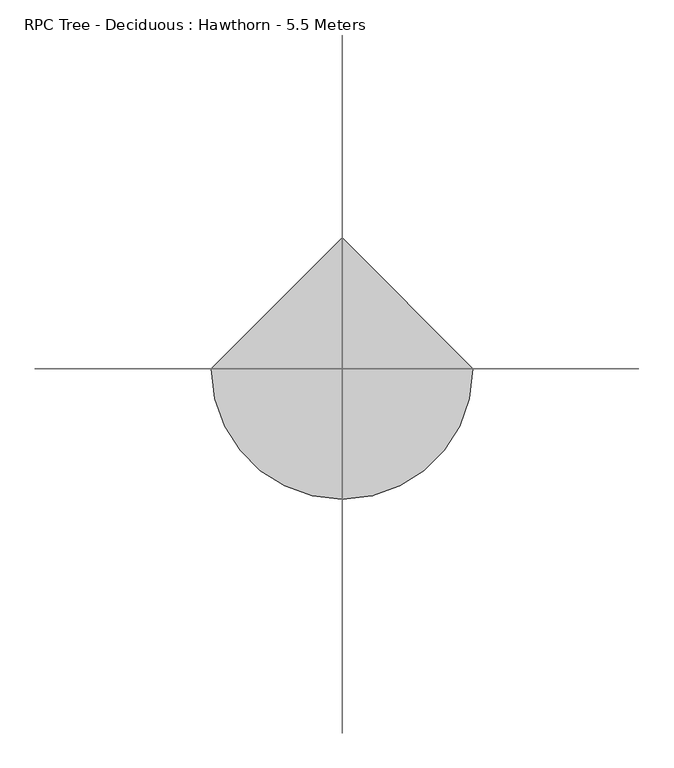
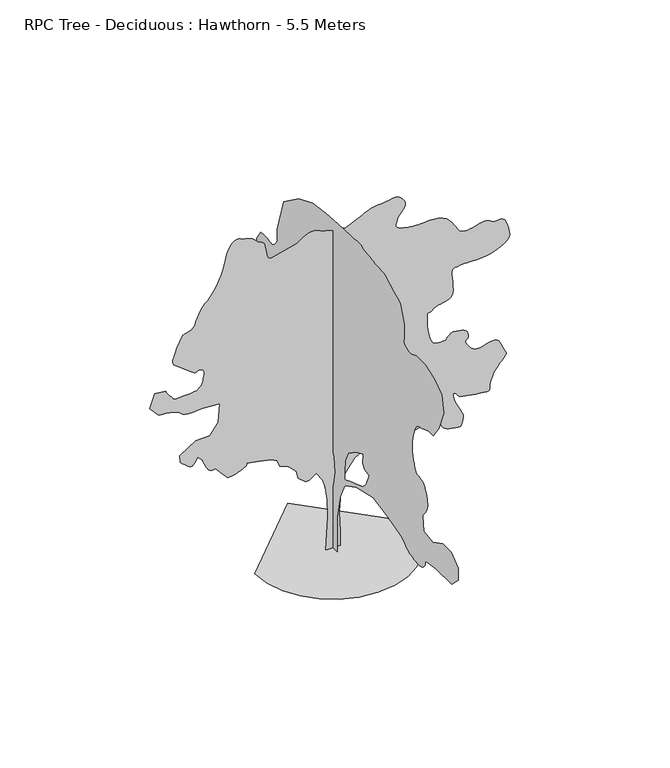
"""IFC4 building model written with IfcOpenShell, lengths in millimetres: geographic element geometry, RPC Tree - Deciduous : Hawthorn - 5.5 Meters."""

from ifc_helpers import new_model, si_unit, origin, place, context, project, spatial, triangles, source, transform, mapped, element, save


def rpc_tree_deciduous_hawthorn_5_5_meters_a7f34c08(model_context):
    return source(origin(), model_context, "Body", "Tessellation", [
        triangles([(114.8598677, 0.0002849, 0.0139362), (-111.2205186, 0.0002849, 0.0139362), (-78.9228988, 0.0002531, 532.9164539), (-86.9974423, 0.0002367, 807.4431564), (-119.2943263, 0.0002242, 1017.3742378), (-151.591937, 0.0002165, 1146.5636633), (-256.5563968, 0.0002079, 1291.9009403), (-361.5237906, 0.0002122, 1219.2313934), (-418.0435601, 0.0002127, 1211.157395), (-531.0830993, 0.0002069, 1308.0489372), (-563.3809098, 0.0001992, 1437.23829), (-676.4204853, 0.0001925, 1550.2779018), (-813.6838366, 0.0001891, 1606.7977077), (-854.0555729, 0.0001833, 1703.6891773), (-942.8731894, 0.0001804, 1752.1350574), (-1128.5804586, 0.000178, 1792.5067211), (-1314.28969, 0.0001761, 1824.8027149), (-1312.8303314, 0.0001765, 1817.8122986), (-1312.9952923, 0.000177, 1810.3964722), (-1316.4088921, 0.0001775, 1802.1336044), (-1324.6955956, 0.000178, 1792.6003201), (-1339.4778328, 0.0001787, 1781.371209), (-1362.3834114, 0.0001795, 1768.0244946), (-1395.0331627, 0.0001804, 1752.1350574), (-1431.4486725, 0.0001814, 1736.7166672), (-1464.899683, 0.0001821, 1724.6862968), (-1495.8774433, 0.0001826, 1715.4830795), (-1524.8807602, 0.000183, 1708.5384453), (-1552.3989933, 0.0001833, 1703.2894924), (-1578.9273159, 0.0001836, 1699.1701218), (-1604.9643894, 0.0001838, 1695.6152515), (-1693.7819332, 0.000178, 1792.5067211), (-1790.6734028, 0.0001713, 1905.5463329), (-1809.6943348, 0.0001715, 1902.3013275), (-1828.6436142, 0.0001716, 1900.3213612), (-1847.448135, 0.0001716, 1900.8896404), (-1866.0564468, 0.0001713, 1905.2713497), (-1884.3713173, 0.0001707, 1914.7313828), (-1902.3196404, 0.0001698, 1930.5529461), (-1919.864645, 0.0001684, 1953.9829113), (-1935.759605, 0.0001668, 1980.7312786), (-1949.1063194, 0.0001653, 2005.7745174), (-1960.3262741, 0.0001639, 2029.4062145), (-1969.8595585, 0.0001626, 2051.9195206), (-1978.1279491, 0.0001613, 2073.571106), (-1985.5346191, 0.00016, 2094.6728703), (-1992.5379707, 0.0001588, 2115.4811932), (-2065.1928383, 0.0001544, 2188.1543736), (-2113.6477295, 0.0001588, 2115.4811932), (-2122.3928352, 0.0001596, 2101.8411827), (-2131.7977844, 0.0001603, 2089.4845242), (-2142.4494598, 0.0001609, 2079.6761112), (-2155.0260178, 0.0001613, 2073.6628155), (-2170.1327991, 0.0001613, 2072.7461563), (-2188.4293568, 0.000161, 2078.1911728), (-2210.5393444, 0.0001602, 2091.2627586), (-2235.0326168, 0.0001591, 2109.7795063), (-2259.2693642, 0.0001579, 2129.7261086), (-2281.9293182, 0.0001567, 2149.5260628), (-2301.784211, 0.0001557, 2167.6210339), (-2317.532523, 0.0001548, 2182.4709995), (-2327.9092152, 0.0001542, 2192.51777), (-2331.6492485, 0.000154, 2196.2210323), (-2339.7159073, 0.0001472, 2309.2642776), (-2097.4960991, 0.0001381, 2462.6772972), (-1879.4947254, 0.0001376, 2470.743956), (-1750.3017391, 0.0001275, 2640.3088966), (-1726.077927, 0.0001102, 2930.983596), (-1992.5379707, 0.0001087, 2955.2018852), (-2049.4262135, 0.0001091, 2948.5101425), (-2105.1228138, 0.0001094, 2943.2485451), (-2158.4178165, 0.0001096, 2940.792009), (-2208.1192886, 0.0001095, 2942.5887016), (-2252.9992527, 0.000109, 2950.031852), (-2291.8842339, 0.0001082, 2964.5335831), (-2323.5825897, 0.0001068, 2987.505146), (-2355.500845, 0.0001053, 3012.126899), (-2395.0458149, 0.0001042, 3031.2300934), (-2440.9524605, 0.0001033, 3045.7684502), (-2491.9374298, 0.0001027, 3056.6218575), (-2546.7355385, 0.0001022, 3064.7068291), (-2604.0823288, 0.0001018, 3070.9767952), (-2662.6938675, 0.0001015, 3076.311644), (-2799.9555473, 9.24e-05, 3229.7249542), (-2719.2154175, 7.99e-05, 3439.6598145), (-2557.7357391, 8.08e-05, 3423.5081841), (-2547.3041084, 8.19e-05, 3404.5148666), (-2536.5972038, 8.31e-05, 3385.7229904), (-2525.3223106, 8.42e-05, 3367.3714943), (-2513.1858421, 8.52e-05, 3349.6432159), (-2499.9308372, 8.62e-05, 3332.7582001), (-2485.2639999, 8.72e-05, 3316.9548042), (-2468.9106377, 8.8e-05, 3302.3981346), (-2456.6456886, 8.89e-05, 3288.6667053), (-2450.8890633, 8.96e-05, 3275.6497673), (-2446.2506836, 9.03e-05, 3264.0449524), (-2437.377388, 9.09e-05, 3254.5664612), (-2418.8974113, 9.13e-05, 3247.9116348), (-2385.4391338, 9.15e-05, 3244.7766518), (-2331.6492485, 9.14e-05, 3245.8765846), (-2272.0293411, 9.12e-05, 3249.3414894), (-2223.4093437, 9.1e-05, 3252.8066849), (-2183.9743961, 9.08e-05, 3256.2532768), (-2151.8910347, 9.06e-05, 3259.7181816), (-2125.3260864, 9.04e-05, 3263.1833771), (-2102.409462, 9.02e-05, 3266.6482819), (-2081.3444687, 9e-05, 3270.0948738), (-2060.7195648, 8.9e-05, 3285.7514763), (-2040.9562363, 8.81e-05, 3301.9031067), (-2022.879578, 8.7e-05, 3319.0447929), (-2007.3328526, 8.59e-05, 3337.6532501), (-1995.1962387, 8.47e-05, 3358.2598412), (-1987.276228, 8.33e-05, 3381.323259), (-1984.4528538, 8.18e-05, 3407.3565536), (-1981.5929993, 8.01e-05, 3436.268161), (-1975.3228878, 7.82e-05, 3466.5913101), (-1969.1995697, 7.64e-05, 3496.7679565), (-1966.7613464, 7.47e-05, 3525.258078), (-1971.5096031, 7.32e-05, 3550.4847359), (-1987.0012447, 7.2e-05, 3570.9262207), (-2016.7562599, 7.12e-05, 3585.0061752), (-2046.6028393, 7.1e-05, 3588.1594711), (-2064.734436, 7.14e-05, 3581.5595833), (-2078.1911728, 7.19e-05, 3572.2828239), (-2094.06782, 7.22e-05, 3567.3880646), (-2119.3861874, 7.18e-05, 3573.9330139), (-2161.2410454, 7.04e-05, 3598.9762527), (-2226.6909748, 6.73e-05, 3649.594384), (-2299.3092167, 6.4e-05, 3705.9694313), (-2357.8108784, 6.15e-05, 3747.6593285), (-2401.9025185, 5.95e-05, 3780.7326004), (-2431.2908409, 5.77e-05, 3811.2760849), (-2445.71903, 5.57e-05, 3845.3210999), (-2444.8940804, 5.31e-05, 3888.990818), (-2428.5408634, 4.95e-05, 3948.3357422), (-2405.2575462, 4.57e-05, 4011.8975601), (-2383.6792122, 4.26e-05, 4065.284127), (-2363.4942524, 3.99e-05, 4110.2005714), (-2344.464164, 3.76e-05, 4148.3339996), (-2326.2591705, 3.56e-05, 4181.3889587), (-2308.6226017, 3.39e-05, 4211.0522644), (-2291.2793289, 3.22e-05, 4239.0104416), (-2258.5359787, 3.18e-05, 4246.1239609), (-2226.5626396, 3.13e-05, 4254.3554352), (-2196.1476357, 3.07e-05, 4264.8606079), (-2168.0611233, 2.98e-05, 4278.7571434), (-2143.0911358, 2.87e-05, 4297.1638687), (-2122.0078297, 2.73e-05, 4321.2170517), (-2105.5627579, 2.55e-05, 4352.0538322), (-2093.8477753, 2.36e-05, 4383.1836182), (-2084.9561668, 2.21e-05, 4409.2169128), (-2076.7611729, 2.06e-05, 4432.9954033), (-2067.1544918, 1.92e-05, 4457.3235695), (-2054.0095093, 1.75e-05, 4485.0619926), (-2035.2362366, 1.55e-05, 4518.9968399), (-2008.6712883, 1.3e-05, 4561.9886925), (-1980.987949, 1.06e-05, 4601.2217628), (-1958.2545982, 9.1e-06, 4626.7786331), (-1937.5013592, 8e-06, 4645.6800957), (-1915.7396061, 6.8e-06, 4665.0033348), (-1890.0363785, 5.2e-06, 4691.8066406), (-1857.4030506, 2.8e-06, 4733.1666161), (-1814.8954708, -1e-06, 4796.1415512), (-1771.1575882, -5.4e-06, 4869.4931786), (-1735.895351, -9.5e-06, 4938.0416107), (-1707.693148, -1.33e-05, 5002.9231155), (-1685.1414722, -1.7e-05, 5065.2565201), (-1666.8264565, -2.07e-05, 5126.1778015), (-1651.3384483, -2.43e-05, 5186.8246811), (-1637.2602379, -2.8e-05, 5248.295929), (-1620.1002388, -3.16e-05, 5310.0247192), (-1596.8664825, -3.51e-05, 5368.3612747), (-1568.4058651, -3.82e-05, 5419.9145233), (-1535.5671719, -4.06e-05, 5461.2928116), (-1499.1975895, -4.23e-05, 5489.1225082), (-1460.1457581, -4.3e-05, 5499.994519), (-1419.2552307, -4.24e-05, 5490.53405), (-1378.6963692, -4.14e-05, 5473.2275482), (-1339.9709713, -4.06e-05, 5460.8707443), (-1302.9431442, -4e-05, 5450.4940521), (-1267.4681293, -3.93e-05, 5439.1278854), (-1233.4049469, -3.84e-05, 5423.800914), (-1200.6139252, -3.71e-05, 5401.544133), (-1168.9522676, -3.52e-05, 5369.4245819), (-1139.7381351, -3.35e-05, 5340.5496002), (-1114.197979, -3.25e-05, 5325.387735), (-1092.0458427, -3.2e-05, 5316.8812775), (-1073.0030371, -3.15e-05, 5307.9347305), (-1056.7835329, -3.05e-05, 5291.5078262), (-1043.1068968, -2.87e-05, 5260.5242523), (-1031.6889164, -2.55e-05, 5207.9263), (-1022.03827, -2.2e-05, 5148.0497223), (-1012.8111443, -1.91e-05, 5099.5945404), (-1002.4527649, -1.69e-05, 5062.1764755), (-989.4122818, -1.53e-05, 5035.3362534), (-972.1331766, -1.43e-05, 5018.6715729), (-949.0643085, -1.39e-05, 5011.7411819), (-918.6493773, -1.4e-05, 5014.1433609), (-547.2329129, -1.98e-05, 5111.0345398), (-503.9644784, -2.16e-05, 5141.834404), (-460.6281701, -2.33e-05, 5170.5076538), (-417.1488836, -2.48e-05, 5194.9276749), (-373.4587815, -2.58e-05, 5213.023082), (-329.4845035, -2.64e-05, 5222.6114502), (-285.1581938, -2.64e-05, 5221.6394165), (-240.408418, -2.55e-05, 5207.9263), (-196.1297981, -2.44e-05, 5188.8228149), (-153.1216674, -2.34e-05, 5172.6714752), (-111.1730379, -2.26e-05, 5158.9944031), (-70.0719447, -2.19e-05, 5147.298024), (-29.6062847, -2.13e-05, 5137.0678345), (10.4354686, -2.08e-05, 5127.8463043), (50.2653639, -2.03e-05, 5119.1195114), (195.6036311, -1.93e-05, 5102.9681717), (421.6827275, -2.51e-05, 5199.8593506), (454.6863453, -2.63e-05, 5220.4842545), (488.4673139, -2.75e-05, 5240.247583), (523.801131, -2.86e-05, 5258.3243866), (561.4650747, -2.95e-05, 5273.8711121), (602.2365323, -3.02e-05, 5286.0075806), (646.8928545, -3.07e-05, 5293.9280273), (696.2094664, -3.08e-05, 5296.7511108), (749.7390478, -3.11e-05, 5300.5642502), (805.1056538, -3.16e-05, 5309.4561493), (860.1899368, -3.22e-05, 5319.6311096), (912.8725496, -3.27e-05, 5327.2579697), (961.0359615, -3.27e-05, 5328.5230087), (1002.5609705, -3.22e-05, 5319.6311096), (1035.3299006, -3.08e-05, 5296.7511108), (1060.8938925, -2.91e-05, 5266.9413025), (1081.6563606, -2.74e-05, 5239.2581085), (1096.7685196, -2.58e-05, 5212.8579758), (1105.3851448, -2.43e-05, 5186.8613068), (1106.6557068, -2.27e-05, 5160.4431519), (1099.7348356, -2.11e-05, 5132.7593765), (1083.7738913, -1.93e-05, 5102.9681717), (1064.0014063, -1.77e-05, 5075.8529663), (1046.2052542, -1.64e-05, 5055.0815598), (1030.3854349, -1.54e-05, 5038.1413147), (1016.5437653, -1.45e-05, 5022.4666901), (1004.6803179, -1.35e-05, 5005.5078415), (994.7931307, -1.22e-05, 4984.7550385), (986.8822763, -1.06e-05, 4957.6212296), (978.5497908, -8.9e-06, 4928.3613876), (969.6526594, -7.3e-06, 4902.4931992), (963.5788296, -6e-06, 4879.4480942), (963.7200274, -4.7e-06, 4858.6583748), (973.4660168, -3.6e-06, 4839.5732025), (996.2048178, -2.5e-06, 4821.6065666), (1035.3299006, -1.5e-06, 4804.20821), (1084.5273336, -6e-07, 4789.2666801), (1134.2913019, 0.0, 4778.5600662), (1183.2082289, 5e-07, 4771.3732956), (1229.864756, 7e-07, 4767.028212), (1272.8490509, 9e-07, 4764.7917206), (1310.7494991, 9e-07, 4763.9667709), (1342.1526695, 9e-07, 4763.8382904), (1377.6275391, 8e-07, 4765.8000893), (1426.2383801, 6e-07, 4769.5949158), (1484.3109982, 4e-07, 4772.1066811), (1548.1749779, 5e-07, 4770.2550499), (1614.1584503, 1.1e-06, 4760.9050392), (1678.5872211, 2.3e-06, 4740.9582916), (1737.7929096, 4.3e-06, 4707.3167404), (1787.1791393, 6.9e-06, 4662.8584076), (1826.397821, 9.8e-06, 4614.5686226), (1858.1364361, 1.27e-05, 4565.5817871), (1885.0680771, 1.55e-05, 4518.9968399), (1909.8729584, 1.8e-05, 4477.9304512), (1935.2462643, 1.99e-05, 4445.4620842), (1963.8645756, 2.11e-05, 4424.7270126), (1995.9662498, 2.18e-05, 4414.4052589), (2029.7362816, 2.2e-05, 4410.4636391), (2064.9361679, 2.19e-05, 4411.8019295), (2101.2544453, 2.16e-05, 4417.3754265), (2138.4161304, 2.11e-05, 4426.1388451), (2176.1644077, 2.04e-05, 4437.0102745), (2214.1693554, 1.97e-05, 4448.9453018), (2248.6909401, 1.93e-05, 4455.6553574), (2282.6259327, 1.9e-05, 4461.1003738), (2315.4425343, 1.88e-05, 4463.9969994), (2346.5726109, 1.89e-05, 4463.0801949), (2375.4291344, 1.92e-05, 4457.0668991), (2401.462429, 1.99e-05, 4444.7103859), (2424.1040703, 2.11e-05, 4424.7270126), (2449.349041, 2.2e-05, 4410.060466), (2481.633989, 2.21e-05, 4409.2355164), (2518.1724564, 2.18e-05, 4414.3503204), (2556.1224655, 2.16e-05, 4417.4669907), (2592.6606422, 2.2e-05, 4410.7203094), (2624.9455902, 2.34e-05, 4386.1720985), (2650.1905609, 2.64e-05, 4335.9022018), (2670.0820793, 3.02e-05, 4273.1289986), (2686.7287376, 3.36e-05, 4216.2772362), (2697.8571281, 3.66e-05, 4165.3655182), (2701.2304688, 3.93e-05, 4120.3758224), (2694.5570389, 4.16e-05, 4081.3255898), (2675.6189507, 4.36e-05, 4048.1973793), (2642.1055893, 4.52e-05, 4021.0092133), (2602.0655914, 4.66e-05, 3996.9008011), (2563.0156494, 4.8e-05, 3973.5074615), (2521.9855957, 4.93e-05, 3951.5259544), (2476.0058441, 5.05e-05, 3931.6524582), (2422.1241039, 5.15e-05, 3914.6026268), (2357.3709343, 5.23e-05, 3901.0909515), (2278.7760223, 5.29e-05, 3891.8141922), (2201.941032, 5.32e-05, 3887.1391869), (2141.6243649, 5.32e-05, 3885.9843155), (2093.6094177, 5.32e-05, 3886.9560585), (2053.6245037, 5.31e-05, 3888.6242706), (2017.4711872, 5.3e-05, 3889.5777008), (1980.8962395, 5.31e-05, 3888.4225388), (1939.6462864, 5.34e-05, 3883.7475334), (1899.8814171, 5.37e-05, 3878.779232), (1869.7413963, 5.39e-05, 3875.644249), (1847.9063919, 5.41e-05, 3871.2442268), (1833.1535133, 5.46e-05, 3862.4624954), (1824.1848747, 5.56e-05, 3846.200988), (1819.735437, 5.72e-05, 3819.3427437), (1818.5346382, 5.96e-05, 3778.7894051), (1821.7832771, 6.29e-05, 3724.2843018), (1828.7040756, 6.66e-05, 3661.1811768), (1835.0547054, 7.06e-05, 3594.6677948), (1836.6130405, 7.45e-05, 3530.0063347), (1829.1275963, 7.79e-05, 3472.4031647), (1808.3650555, 8.06e-05, 3427.0829659), (1770.0887581, 8.23e-05, 3399.2898949), (1723.5974098, 8.31e-05, 3384.6230576), (1680.9192009, 8.38e-05, 3373.9164436), (1641.9132969, 8.43e-05, 3365.1713379), (1606.438282, 8.48e-05, 3356.4448357), (1574.3531765, 8.54e-05, 3345.7382217), (1545.5148205, 8.63e-05, 3331.0713844), (1519.7858677, 8.76e-05, 3310.4647934), (1497.5164421, 8.85e-05, 3294.3864143), (1479.0621906, 8.88e-05, 3289.6198448), (1464.278064, 8.89e-05, 3288.6481018), (1453.0270065, 8.91e-05, 3284.0100128), (1445.1638237, 9.01e-05, 3268.2249298), (1440.5492798, 9.21e-05, 3233.7767418), (1439.042395, 9.57e-05, 3173.2034042), (1442.3387054, 0.0001003, 3095.7450508), (1451.5676479, 0.000105, 3018.1218819), (1465.7374226, 0.0001094, 2944.1836624), (1483.8636417, 0.0001133, 2877.725219), (1504.9561043, 0.0001166, 2822.5785851), (1528.0248997, 0.000119, 2782.5388779), (1552.0837509, 0.0001203, 2761.4186554), (1579.7194187, 0.0001208, 2753.3519966), (1612.0171566, 0.000121, 2749.2272484), (1645.7265816, 0.0001211, 2748.0720863), (1677.6009441, 0.000121, 2748.897036), (1704.3876812, 0.0001209, 2750.7120415), (1722.8438221, 0.0001208, 2752.527047), (1729.7188385, 0.0001208, 2753.3519966), (1732.2836529, 0.0001204, 2759.5303986), (1740.357724, 0.0001195, 2775.187001), (1754.5055523, 0.0001182, 2795.9220726), (1775.2917835, 0.0001169, 2817.3719261), (1803.2813541, 0.0001159, 2835.1554337), (1839.0330963, 0.0001153, 2844.8719917), (1883.1247364, 0.0001155, 2842.1587852), (1928.5912926, 0.000116, 2832.8820259), (1967.9713017, 0.0001165, 2824.3203392), (2001.1362831, 0.0001171, 2814.2003174), (2027.9395889, 0.000118, 2800.2671562), (2048.2711967, 0.0001192, 2780.2471573), (2061.9478329, 0.0001208, 2751.9038292), (2068.8411621, 0.0001232, 2712.982077), (2066.2561455, 0.0001253, 2677.7821907), (2055.0361908, 0.0001265, 2657.8354431), (2040.4428955, 0.0001271, 2646.6704269), (2027.6829185, 0.0001276, 2637.7421928), (2021.9995445, 0.0001284, 2624.5790428), (2028.5812649, 0.0001299, 2600.6906754), (2052.6895317, 0.0001323, 2559.5690575), (2085.4878204, 0.000135, 2515.1656631), (2115.2977741, 0.0001368, 2484.1823799), (2143.1460743, 0.000138, 2464.2173195), (2170.0227768, 0.0001387, 2452.8874878), (2196.8810211, 0.000139, 2447.7540802), (2224.7293213, 0.0001391, 2446.4341026), (2254.539275, 0.000139, 2446.5256668), (2291.4809155, 0.0001386, 2453.5839569), (2337.4609577, 0.0001377, 2469.4056656), (2388.6475136, 0.0001367, 2485.9241341), (2441.2640694, 0.0001362, 2495.1090385), (2491.4790276, 0.0001365, 2488.8940109), (2535.4789581, 0.0001383, 2459.2307053), (2569.4507217, 0.0001419, 2398.0707756), (2596.2540276, 0.000146, 2330.4208351), (2619.8121826, 0.0001488, 2282.9743126), (2637.8706734, 0.0001507, 2250.1943367), (2648.1555107, 0.0001522, 2226.6177235), (2648.4304939, 0.0001533, 2206.6892887), (2636.3855896, 0.0001546, 2184.9459938), (2609.8206413, 0.0001564, 2155.8511127), (2578.5806877, 0.0001583, 2123.7677513), (2553.445594, 0.00016, 2096.2312054), (2533.3523438, 0.0001615, 2072.4711731), (2517.3105904, 0.0001628, 2051.7362469), (2504.3122559, 0.000164, 2033.2745831), (2493.3489716, 0.0001652, 2016.3346287), (2483.3940559, 0.0001662, 2000.1279144), (2480.919207, 0.000166, 2001.9062943), (2477.5458664, 0.000166, 2000.8796127), (2472.394146, 0.0001662, 1994.3162052), (2464.5658447, 0.000167, 1979.4296139), (2453.162471, 0.0001685, 1953.4512577), (2437.267511, 0.0001708, 1913.5946789), (2416.0374115, 0.0001742, 1857.1097546), (2400.0324291, 0.0001776, 1799.4515007), (2395.7424294, 0.0001802, 1756.7715477), (2396.1091221, 0.0001819, 1727.2291649), (2394.0925301, 0.000183, 1708.9856564), (2382.5974468, 0.0001835, 1700.2059597), (2354.5841858, 0.0001836, 1699.050943), (2302.9943115, 0.0001833, 1703.6891773), (2240.0743149, 0.0001829, 1710.8446999), (2182.2327873, 0.0001824, 1718.4254871), (2128.6261757, 0.000182, 1726.3584332), (2078.4112175, 0.0001815, 1734.573484), (2030.7445049, 0.000181, 1743.0013126), (1984.7829208, 0.0001805, 1751.5702663), (1939.6462864, 0.00018, 1760.2089832), (1910.6063438, 0.0001778, 1795.7555054), (1883.7480995, 0.000176, 1826.5683048), (1861.2531063, 0.0001747, 1847.9247047), (1845.3396881, 0.0001743, 1855.0747044), (1838.1896885, 0.000175, 1843.3047832), (1841.9848057, 0.0001771, 1807.8774399), (1858.9064472, 0.0001809, 1744.0609863), (1885.9847363, 0.0001853, 1670.0970417), (1916.2897179, 0.0001891, 1606.1615547), (1946.1912357, 0.0001925, 1550.4190269), (1971.9863182, 0.0001954, 1501.0309078), (1990.0262054, 0.0001981, 1456.163879), (1996.6079258, 0.0002006, 1413.980698), (1988.1013229, 0.0002031, 1372.6426689), (1975.451223, 0.0002052, 1335.9449089), (1969.0346088, 0.0002069, 1308.4247864), (1964.158017, 0.000208, 1289.3820534), (1956.1829224, 0.0002087, 1278.1051254), (1940.4346104, 0.0002089, 1273.8921558), (1912.2563885, 0.0002088, 1276.0334496), (1866.973106, 0.0002083, 1283.8251251), (1816.3693634, 0.0002077, 1293.9011089), (1774.5145054, 0.0002071, 1304.1183632), (1740.2862167, 0.0002065, 1315.6058887), (1712.5570953, 0.0002056, 1329.4934132), (1690.1940708, 0.0002046, 1346.9137161), (1672.0678516, 0.0002033, 1368.9943451), (1657.0492916, 0.0002016, 1396.866481), (1647.5617893, 0.0001998, 1426.9277275), (1644.4323292, 0.0001982, 1454.4459606), (1644.1260979, 0.0001967, 1478.8568253), (1643.1140957, 0.0001955, 1499.595385), (1637.8633987, 0.0001945, 1516.0972847), (1624.8467514, 0.0001938, 1527.7956985), (1600.5294857, 0.0001934, 1534.1299049), (1571.7388012, 0.0001933, 1536.8835159), (1547.1868114, 0.0001932, 1538.3667103), (1526.1658562, 0.0001932, 1538.7902309), (1507.9682751, 0.0001932, 1538.3667103), (1491.8917854, 0.0001932, 1537.3070366), (1477.2250935, 0.0001933, 1535.8238422), (1463.2662071, 0.0001934, 1534.1299049), (1269.4829773, 0.0001978, 1461.460358), (1140.2936245, 0.0001925, 1550.2779018), (996.721792, 0.0001952, 1498.0334164), (1018.3331182, 0.0001961, 1484.9288383), (1036.9231173, 0.0001969, 1471.3676022), (1049.4703892, 0.0001979, 1456.8934856), (1052.9537521, 0.0001989, 1441.0479412), (1044.3517336, 0.0002, 1423.3747467), (1020.6449684, 0.0002012, 1403.4170986), (978.8101673, 0.0002026, 1380.71674), (933.6129988, 0.0002038, 1360.80313), (899.0070442, 0.0002045, 1348.9377205), (870.7590591, 0.0002047, 1344.2773945), (844.6304214, 0.0002046, 1345.9714771), (816.382509, 0.0002042, 1353.1764153), (781.7783712, 0.0002035, 1365.0399353), (736.5812027, 0.0002026, 1380.71674), (526.6482682, 0.0001987, 1445.3123611), (332.8651474, 0.000205, 1340.3468204), (187.5277977, 0.0002165, 1146.5636633), (139.082935, 0.0002247, 1009.300312), (122.9338571, 0.0002348, 839.740967), (98.7115165, 0.0002517, 557.140266), (114.8598677, 0.0002719, 218.0197773), (-8.87e-05, -113.6725946, 0.0115907), (-8.87e-05, 120.4837886, 0.0116047), (-7.31e-05, 128.2890171, 507.3506453), (-6.26e-05, 167.3149508, 764.922714), (-5.22e-05, 292.1981893, 1022.4947828), (-4.7e-05, 409.2765807, 1194.2082842), (-4.18e-05, 612.2116865, 1334.7019615), (-3.13e-05, 963.4468609, 1490.8063866), (-2.09e-05, 1377.1233547, 1537.6371037), (-2.09e-05, 1619.0846031, 1389.3388882), (-2.09e-05, 1798.6044594, 1365.9236023), (-1.57e-05, 1900.0646908, 1561.0541336), (-1.04e-05, 2063.9828831, 1584.4695648), (-5.2e-06, 2407.4024734, 1607.8848507), (0.0, 2610.3522949, 1623.4956711), (5.2e-06, 2711.8088928, 1701.5478836), (5.2e-06, 2704.0172173, 1826.4308132), (1.04e-05, 2828.8854675, 1904.4830257), (1.04e-05, 2863.8286835, 1911.2663326), (1.04e-05, 2897.5987152, 1918.5996059), (1.04e-05, 2929.0404007, 1927.0146446), (1.57e-05, 2956.9985779, 1937.0612698), (1.57e-05, 2980.3369789, 1949.307906), (1.57e-05, 2997.8452126, 1964.2863522), (1.57e-05, 3008.4053238, 1982.5279713), (1.57e-05, 3014.6383736, 2004.4179142), (1.57e-05, 3020.0650772, 2029.5894882), (1.57e-05, 3024.7953117, 2057.4928722), (2.09e-05, 3028.9752892, 2087.5778091), (2.09e-05, 3032.7518028, 2119.2944778), (2.09e-05, 3036.2719368, 2152.1110794), (2.09e-05, 3039.6269646, 2185.4776474), (2.61e-05, 2906.9487259, 2349.3775269), (2.09e-05, 2618.1439705, 2364.9975037), (1.57e-05, 2446.4341026, 2240.1109406), (1.57e-05, 2435.9473881, 2238.0392647), (1.57e-05, 2408.3925293, 2233.0892761), (1.57e-05, 2369.6358833, 2227.2043156), (1.04e-05, 2325.5625561, 2222.2726398), (1.04e-05, 2282.0208824, 2220.200964), (1.04e-05, 2244.9142811, 2222.896003), (1.04e-05, 2220.0909416, 2232.3009521), (1.04e-05, 2203.1326744, 2248.1775993), (1.04e-05, 2185.7710888, 2268.5826038), (1.04e-05, 2168.0611233, 2292.7093288), (1.04e-05, 2150.0944874, 2319.8608692), (1.57e-05, 2131.9078068, 2349.2675045), (1.57e-05, 2113.592791, 2380.1775364), (1.57e-05, 2095.2045238, 2411.8208084), (2.09e-05, 2056.1728947, 2606.9606415), (2.61e-05, 2220.0909416, 2731.8288918), (3.65e-05, 2344.9775047, 2942.5703888), (3.65e-05, 2142.0278286, 3129.8999428), (3.13e-05, 1931.2863316, 3059.6466728), (2.61e-05, 1798.6044594, 2950.3803772), (2.61e-05, 1650.3044998, 3051.8552879), (3.13e-05, 1650.3044998, 3223.5648651), (4.18e-05, 1790.7981045, 3379.673069), (4.18e-05, 1820.8134235, 3396.3746658), (4.18e-05, 1850.2896767, 3412.92976), (4.18e-05, 1878.6513176, 3429.2281837), (4.18e-05, 1905.3996849, 3445.1048309), (4.18e-05, 1929.9480412, 3460.4498245), (4.7e-05, 1951.7645874, 3475.0980583), (4.7e-05, 1970.3179607, 3488.9396553), (4.7e-05, 1984.764608, 3508.2445816), (4.7e-05, 1995.122842, 3538.1828705), (4.7e-05, 2002.0712551, 3577.0130585), (5.22e-05, 2006.2695454, 3622.9195587), (5.22e-05, 2008.4329308, 3674.1795113), (5.22e-05, 2009.2395676, 3728.9593071), (5.22e-05, 2009.3495899, 3785.5360863), (5.74e-05, 1907.8746792, 3941.6442902), (5.74e-05, 1904.2080425, 3942.4875526), (5.74e-05, 1893.867976, 3944.5592285), (5.74e-05, 1877.7714294, 3947.1808708), (5.74e-05, 1856.9080227, 3949.6560104), (5.74e-05, 1832.2149078, 3951.3059097), (5.74e-05, 1804.6562702, 3951.4707253), (5.74e-05, 1775.1891735, 3949.4542786), (5.74e-05, 1743.8777126, 3944.9257759), (5.22e-05, 1711.0628551, 3939.0226479), (5.22e-05, 1678.1123955, 3933.2660225), (5.22e-05, 1646.3920933, 3929.1409836), (5.22e-05, 1617.2640747, 3928.1692406), (5.22e-05, 1592.0961342, 3931.8358772), (5.22e-05, 1572.2540314, 3941.6442902), (5.22e-05, 1556.2105339, 3955.7059319), (5.22e-05, 1541.3971939, 3970.9959869), (5.22e-05, 1527.6069019, 3987.3124329), (5.22e-05, 1514.6360367, 4004.4541191), (5.22e-05, 1502.2793781, 4022.2007103), (5.22e-05, 1490.3315609, 4040.3507652), (5.22e-05, 1478.5909985, 4058.7208649), (6.26e-05, 1470.7846436, 4253.8420944), (7.31e-05, 1306.8756077, 4800.2116516), (7.83e-05, 908.8098616, 5089.0161163), (7.83e-05, 534.1594377, 5245.1060074), (7.31e-05, 190.7306364, 5291.9479156), (6.79e-05, -144.8933179, 5315.3592773), (6.26e-05, -472.7116622, 5330.9792542), (6.26e-05, -501.4528221, 5332.6111313), (6.26e-05, -543.9824209, 5336.4242706), (6.26e-05, -594.9783634, 5340.8059799), (6.26e-05, -649.1148119, 5344.0691528), (6.26e-05, -701.0659286, 5344.6197006), (5.74e-05, -745.5076927, 5340.8059799), (5.74e-05, -777.1161558, 5330.9792542), (5.74e-05, -809.6340111, 5318.4945511), (5.74e-05, -856.6240934, 5307.6777695), (5.74e-05, -912.4893608, 5298.1992783), (5.74e-05, -971.630809, 5289.8213013), (5.22e-05, -1028.4512506, 5282.2676926), (5.22e-05, -1077.3535709, 5275.2646317), (5.22e-05, -1112.738693, 5268.5359726), (5.22e-05, -1145.1886019, 5263.8792801), (5.22e-05, -1186.9226097, 5261.9730011), (5.22e-05, -1234.8000652, 5260.7445877), (4.7e-05, -1285.6822792, 5258.1592804), (4.7e-05, -1336.4271469, 5252.1462753), (4.7e-05, -1383.8957611, 5240.6696503), (4.7e-05, -1424.9476158, 5221.6946457), (4.7e-05, -1464.7015846, 5197.604837), (4.18e-05, -1509.7813911, 5172.2680115), (4.18e-05, -1559.2978455, 5145.9231079), (4.18e-05, -1612.3636471, 5118.7532547), (3.65e-05, -1668.0932396, 5090.9596024), (3.65e-05, -1725.595689, 5062.7630676), (3.65e-05, -1783.9873283, 5034.364801), (2.61e-05, -1893.2630711, 4761.1983353), (1.57e-05, -1885.4530827, 4511.425209), (1.57e-05, -1879.054636, 4499.6552879), (1.57e-05, -1874.4347145, 4487.5554451), (1.57e-05, -1873.3714073, 4474.7585518), (1.57e-05, -1877.6246361, 4460.9535805), (1.57e-05, -1888.9913841, 4445.7736931), (1.57e-05, -1909.2129696, 4428.8886772), (1.57e-05, -1940.0863758, 4409.9502983), (1.57e-05, -1977.1195805, 4394.8986008), (1.04e-05, -2014.5562489, 4388.8303665), (1.04e-05, -2052.322839, 4390.2971375), (1.04e-05, -2090.3644123, 4397.7586006), (1.04e-05, -2128.6261757, 4409.7302536), (1.04e-05, -2167.0161289, 4424.7086998), (1.04e-05, -2205.4610207, 4441.1719391), (5.2e-06, -2447.4241585, 4441.1719391), (0.0, -2689.3872963, 4363.1269936), (-5.2e-06, -2884.5271294, 4222.6390572), (-1.57e-05, -2931.3501434, 3949.4542786), (-2.09e-05, -2798.6721954, 3621.6362068), (-2.61e-05, -2658.1656555, 3426.4963737), (-2.61e-05, -2632.8840591, 3426.3681839), (-2.61e-05, -2606.4473007, 3425.4147537), (-2.61e-05, -2577.682196, 3422.8114243), (-2.61e-05, -2545.4338737, 3417.7698715), (-2.61e-05, -2508.5474625, 3409.4282295), (-2.61e-05, -2465.8675095, 3397.0164871), (-2.09e-05, -2416.2025177, 3379.673069), (-2.09e-05, -2366.3908779, 3362.9714722), (-2.09e-05, -2323.5459641, 3351.1832382), (-2.09e-05, -2286.970871, 3341.5765572), (-2.09e-05, -2256.0060459, 3331.4199097), (-2.09e-05, -2229.9542931, 3317.9997986), (-2.09e-05, -2208.1377468, 3298.5666824), (-2.09e-05, -2189.8593567, 3270.3881699), (-2.61e-05, -2171.9661175, 3229.9633118), (-2.61e-05, -2152.8627777, 3178.1900185), (-2.61e-05, -2134.1444435, 3119.0468262), (-2.61e-05, -2117.4977852, 3056.4933769), (-3.13e-05, -2104.5177635, 2994.4901848), (-3.13e-05, -2096.872736, 2936.9785789), (-3.13e-05, -2096.1944344, 2887.9370956), (-3.65e-05, -2102.6844452, 2837.777076), (-3.65e-05, -2114.6194725, 2778.2121071), (-3.65e-05, -2130.8077286, 2715.0903786), (-4.18e-05, -2149.984465, 2654.2789742), (-4.18e-05, -2170.939436, 2601.6807312), (-4.7e-05, -2192.4443733, 2563.1255264), (-4.7e-05, -2213.2710091, 2544.5173599), (-4.7e-05, -2238.0760357, 2539.3290138), (-4.7e-05, -2270.2509613, 2535.497271), (-4.7e-05, -2306.6609482, 2530.5839081), (-4.7e-05, -2344.1708679, 2522.1140762), (-4.7e-05, -2379.6091118, 2507.6489708), (-5.22e-05, -2409.8774677, 2484.7140335), (-5.22e-05, -2431.8224945, 2450.8524376), (-5.22e-05, -2448.8357002, 2411.6007637), (-5.22e-05, -2465.7207161, 2373.8341736), (-5.74e-05, -2481.3773186, 2337.1858292), (-5.74e-05, -2494.7241783, 2301.1976189), (-5.74e-05, -2504.6424683, 2265.5027046), (-5.74e-05, -2510.0505684, 2229.660997), (-6.26e-05, -2509.86744, 2193.269323), (-6.26e-05, -2503.5608482, 2157.6110344), (-6.26e-05, -2491.9374298, 2124.0061089), (-6.26e-05, -2475.8773636, 2092.1061665), (-6.26e-05, -2456.2608284, 2061.5628273), (-6.26e-05, -2433.9857346, 2032.0461697), (-6.26e-05, -2409.9325516, 2003.2262718), (-6.26e-05, -2384.9808769, 1974.7362957), (-7.31e-05, -2400.6008537, 1724.9631695), (-7.83e-05, -2650.3739799, 1693.7415287), (-7.83e-05, -2907.9384911, 1826.4308132), (-7.83e-05, -3134.2816521, 1826.4308132), (-8.87e-05, -3313.8015083, 1678.1325977), (-9.4e-05, -3321.6114967, 1490.8063866), (-9.4e-05, -3142.0916405, 1319.0928852), (-8.87e-05, -2720.6089371, 1311.2866756), (-8.87e-05, -2455.2341469, 1272.2605694), (-8.87e-05, -2448.2124825, 1239.0149242), (-8.87e-05, -2439.1191422, 1206.9975471), (-8.87e-05, -2425.9558468, 1177.4387409), (-8.87e-05, -2406.6324623, 1151.5649569), (-8.87e-05, -2379.1142292, 1130.6063524), (-8.87e-05, -2341.3659519, 1115.7930124), (-8.87e-05, -2291.3342674, 1108.3515335), (-8.87e-05, -2237.6727173, 1107.2588676), (-8.87e-05, -2189.8776695, 1110.1262072), (-8.87e-05, -2147.142778, 1116.13398), (-8.35e-05, -2108.6428024, 1124.4628321), (-8.35e-05, -2073.5527931, 1134.2931187), (-8.35e-05, -2041.0662586, 1144.8054857), (-8.35e-05, -2010.3395004, 1155.1821053), (-8.35e-05, -1978.9528988, 1169.5188028), (-8.35e-05, -1945.6595821, 1190.545281), (-7.83e-05, -1911.4129807, 1215.3942003), (-7.83e-05, -1877.1663792, 1241.200256), (-7.83e-05, -1843.8730625, 1265.0921116), (-7.83e-05, -1812.5011402, 1284.2083866), (-7.83e-05, -1783.9873283, 1295.6758553), (-6.79e-05, -1417.1431503, 1397.1452431), (-6.26e-05, -1073.7125141, 1459.5866352), (-5.74e-05, -613.2053759, 1350.3127819), (-5.74e-05, -308.8026627, 1186.403746), (-6.26e-05, -191.7243075, 944.4424976), (-7.31e-05, -113.6725946, 569.7920737), (-8.35e-05, -113.6725946, 257.5830601), (5.2e-06, 253.1720648, 1568.8587444), (5.2e-06, 276.5873689, 1436.1694599), (0.0, 253.1720648, 1264.4559586), (-1.04e-05, 159.5097404, 1092.7407131), (-1.57e-05, 50.2369454, 850.7794647), (-1.57e-05, -20.0100795, 1038.1037138), (-5.2e-06, -59.0360222, 1256.649749), (0.0, -35.6203458, 1490.8063866), (5.2e-06, 50.2369454, 1670.3262428), (1.04e-05, 128.2890171, 1732.767635), (-2.61e-05, -800.5315144, 1998.1479481), (-2.61e-05, -621.0116581, 1920.0846897), (-2.61e-05, -410.2702337, 1779.6000961), (-3.13e-05, -332.2179849, 1607.8848507), (-3.65e-05, -316.6071645, 1428.3649944), (-4.18e-05, -316.6071645, 1295.6758553), (-4.18e-05, -441.4918745, 1342.5083164), (-4.18e-05, -652.2314821, 1412.754174), (-4.18e-05, -800.5315144, 1475.1974556), (-4.18e-05, -878.5837269, 1561.0541336), (-3.65e-05, -956.6360121, 1740.5739899), (-3.13e-05, -839.5576206, 1771.7938866), (-3.13e-05, -792.7251595, 1849.8497326), (-1191.1246061, 0.0, 7.1e-05), (-1159.6353218, -272.9262188, 5.47e-05), (-1069.9542406, -523.5664433, 3.98e-05), (-929.2607208, -744.7377542, 2.66e-05), (-744.7377542, -929.2607208, 1.56e-05), (-523.5664433, -1069.9523512, 7.2e-06), (-272.9262188, -1159.6353218, 1.9e-06), (4.7e-05, -1191.1246061, 0.0), (272.9262188, -1159.6353218, 1.9e-06), (523.5664433, -1069.9523512, 7.2e-06), (744.7377542, -929.2607208, 1.56e-05), (929.2607208, -744.7377542, 2.66e-05), (1069.9523512, -523.5664433, 3.98e-05), (1159.6353218, -272.9262188, 5.47e-05), (1191.1246061, 0.0001041, 7.1e-05), (-0.0001618, 1191.1246061, 0.000142)], [[403, 404, 405], [1, 2, 3], [491, 1, 3], [490, 491, 3], [490, 3, 4], [489, 490, 4], [489, 4, 5], [488, 489, 5], [84, 85, 86], [84, 86, 87], [83, 84, 87], [83, 87, 88], [83, 88, 89], [83, 89, 90], [82, 83, 90], [82, 90, 91], [82, 91, 92], [81, 82, 92], [81, 92, 93], [81, 93, 94], [81, 94, 95], [81, 95, 96], [81, 96, 97], [80, 81, 97], [80, 97, 98], [79, 80, 98], [79, 98, 99], [78, 79, 99], [78, 99, 100], [77, 78, 100], [77, 100, 101], [488, 5, 6], [487, 488, 6], [76, 77, 101], [76, 101, 102], [75, 76, 102], [74, 75, 102], [73, 74, 102], [73, 102, 103], [72, 73, 103], [72, 103, 104], [71, 72, 104], [71, 104, 105], [70, 71, 105], [70, 105, 106], [70, 106, 107], [69, 70, 107], [68, 69, 107], [68, 107, 108], [68, 108, 109], [68, 109, 110], [68, 110, 111], [68, 111, 112], [63, 64, 65], [62, 63, 65], [61, 62, 65], [60, 61, 65], [59, 60, 65], [58, 59, 65], [57, 58, 65], [56, 57, 65], [55, 56, 65], [54, 55, 65], [53, 54, 65], [52, 53, 65], [51, 52, 65], [50, 51, 65], [49, 50, 65], [48, 49, 65], [48, 65, 66], [47, 48, 66], [30, 31, 32], [467, 468, 469], [487, 6, 7], [486, 487, 7], [68, 112, 113], [8, 9, 10], [7, 8, 10], [7, 10, 11], [29, 30, 32], [414, 415, 416], [414, 416, 417], [413, 414, 417], [413, 417, 418], [412, 413, 418], [412, 418, 419], [141, 142, 143], [411, 412, 419], [411, 419, 420], [12, 13, 14], [28, 29, 32], [424, 425, 426], [27, 28, 32], [442, 443, 444], [441, 442, 444], [441, 444, 445], [440, 441, 445], [440, 445, 446], [439, 440, 446], [439, 446, 447], [438, 439, 447], [437, 438, 447], [436, 437, 447], [436, 447, 448], [435, 436, 448], [435, 448, 449], [435, 449, 450], [435, 450, 451], [435, 451, 452], [435, 452, 453], [435, 453, 454], [435, 454, 455], [435, 455, 456], [434, 435, 456], [434, 456, 457], [433, 434, 457], [433, 457, 458], [432, 433, 458], [432, 458, 459], [431, 432, 459], [431, 459, 460], [431, 460, 461], [430, 431, 461], [430, 461, 462], [430, 462, 463], [430, 463, 464], [411, 420, 421], [410, 411, 421], [410, 421, 422], [409, 410, 422], [409, 422, 423], [408, 409, 423], [408, 423, 424], [408, 424, 426], [408, 426, 427], [408, 427, 428], [407, 408, 428], [430, 464, 465], [406, 407, 428], [473, 474, 475], [472, 473, 475], [472, 475, 476], [471, 472, 476], [471, 476, 477], [470, 471, 477], [470, 477, 478], [470, 478, 479], [470, 479, 480], [470, 480, 481], [470, 481, 482], [470, 482, 483], [470, 483, 484], [470, 484, 485], [406, 428, 429], [26, 27, 32], [68, 113, 114], [25, 26, 32], [25, 32, 33], [24, 25, 33], [23, 24, 33], [22, 23, 33], [21, 22, 33], [20, 21, 33], [19, 20, 33], [18, 19, 33], [17, 18, 33], [46, 47, 66], [430, 465, 466], [45, 46, 66], [44, 45, 66], [43, 44, 66], [42, 43, 66], [41, 42, 66], [40, 41, 66], [39, 40, 66], [38, 39, 66], [37, 38, 66], [36, 37, 66], [35, 36, 66], [34, 35, 66], [33, 34, 66], [17, 33, 66], [17, 66, 67], [16, 17, 67], [15, 16, 67], [15, 67, 68], [68, 114, 115], [68, 115, 116], [68, 116, 117], [430, 466, 467], [430, 467, 469], [429, 430, 469], [403, 405, 406], [124, 125, 126], [123, 124, 126], [123, 126, 127], [403, 406, 429], [402, 403, 429], [401, 402, 429], [400, 401, 429], [399, 400, 429], [122, 123, 127], [122, 127, 128], [486, 7, 11], [486, 11, 12], [485, 486, 12], [485, 12, 14], [394, 395, 396], [393, 394, 396], [393, 396, 397], [392, 393, 397], [392, 397, 398], [391, 392, 398], [391, 398, 399], [391, 399, 429], [390, 391, 429], [389, 390, 429], [388, 389, 429], [387, 388, 429], [386, 387, 429], [385, 386, 429], [384, 385, 429], [383, 384, 429], [382, 383, 429], [381, 382, 429], [380, 381, 429], [379, 380, 429], [378, 379, 429], [377, 378, 429], [376, 377, 429], [376, 429, 469], [375, 376, 469], [374, 375, 469], [374, 469, 470], [374, 470, 485], [374, 485, 14], [373, 374, 14], [373, 14, 15], [373, 15, 68], [373, 68, 117], [373, 117, 118], [373, 118, 119], [372, 373, 119], [372, 119, 120], [325, 326, 327], [325, 327, 328], [324, 325, 328], [323, 324, 328], [323, 328, 329], [323, 329, 330], [322, 323, 330], [322, 330, 331], [321, 322, 331], [321, 331, 332], [320, 321, 332], [320, 332, 333], [319, 320, 333], [175, 176, 177], [174, 175, 177], [173, 174, 177], [173, 177, 178], [172, 173, 178], [172, 178, 179], [171, 172, 179], [170, 171, 179], [170, 179, 180], [170, 180, 181], [170, 181, 182], [170, 182, 183], [170, 183, 184], [169, 170, 184], [169, 184, 185], [168, 169, 185], [168, 185, 186], [167, 168, 186], [166, 167, 186], [166, 186, 187], [166, 187, 188], [166, 188, 189], [166, 189, 190], [166, 190, 191], [166, 191, 192], [166, 192, 193], [166, 193, 194], [166, 194, 195], [165, 166, 195], [164, 165, 195], [164, 195, 196], [163, 164, 196], [162, 163, 196], [162, 196, 197], [161, 162, 197], [160, 161, 197], [289, 290, 291], [289, 291, 292], [288, 289, 292], [288, 292, 293], [287, 288, 293], [287, 293, 294], [286, 287, 294], [286, 294, 295], [286, 295, 296], [286, 296, 297], [286, 297, 298], [286, 298, 299], [286, 299, 300], [286, 300, 301], [286, 301, 302], [286, 302, 303], [286, 303, 304], [286, 304, 305], [286, 305, 306], [285, 286, 306], [285, 306, 307], [284, 285, 307], [283, 284, 307], [282, 283, 307], [281, 282, 307], [280, 281, 307], [279, 280, 307], [278, 279, 307], [277, 278, 307], [276, 277, 307], [275, 276, 307], [275, 307, 308], [275, 308, 309], [274, 275, 309], [274, 309, 310], [273, 274, 310], [273, 310, 311], [273, 311, 312], [272, 273, 312], [272, 312, 313], [271, 272, 313], [271, 313, 314], [271, 314, 315], [271, 315, 316], [270, 271, 316], [270, 316, 317], [269, 270, 317], [268, 269, 317], [267, 268, 317], [266, 267, 317], [265, 266, 317], [264, 265, 317], [263, 264, 317], [262, 263, 317], [261, 262, 317], [260, 261, 317], [259, 260, 317], [258, 259, 317], [257, 258, 317], [256, 257, 317], [256, 317, 318], [255, 256, 318], [254, 255, 318], [253, 254, 318], [252, 253, 318], [252, 318, 319], [252, 319, 333], [252, 333, 334], [252, 334, 335], [252, 335, 336], [252, 336, 337], [252, 337, 338], [251, 252, 338], [250, 251, 338], [249, 250, 338], [249, 338, 339], [248, 249, 339], [369, 370, 371], [369, 371, 372], [368, 369, 372], [367, 368, 372], [366, 367, 372], [365, 366, 372], [364, 365, 372], [363, 364, 372], [362, 363, 372], [361, 362, 372], [360, 361, 372], [359, 360, 372], [358, 359, 372], [357, 358, 372], [356, 357, 372], [355, 356, 372], [354, 355, 372], [248, 339, 340], [140, 141, 143], [140, 143, 144], [139, 140, 144], [353, 354, 372], [132, 133, 134], [131, 132, 134], [131, 134, 135], [130, 131, 135], [130, 135, 136], [129, 130, 136], [129, 136, 137], [128, 129, 137], [122, 128, 137], [122, 137, 138], [122, 138, 139], [122, 139, 144], [122, 144, 145], [122, 145, 146], [121, 122, 146], [121, 146, 147], [120, 121, 147], [120, 147, 148], [120, 148, 149], [120, 149, 150], [120, 150, 151], [120, 151, 152], [120, 152, 153], [120, 153, 154], [120, 154, 155], [120, 155, 156], [120, 156, 157], [120, 157, 158], [120, 158, 159], [120, 159, 160], [120, 160, 197], [120, 197, 198], [120, 198, 199], [227, 228, 229], [227, 229, 230], [226, 227, 230], [226, 230, 231], [225, 226, 231], [225, 231, 232], [225, 232, 233], [225, 233, 234], [225, 234, 235], [225, 235, 236], [225, 236, 237], [225, 237, 238], [225, 238, 239], [225, 239, 240], [224, 225, 240], [224, 240, 241], [223, 224, 241], [223, 241, 242], [222, 223, 242], [222, 242, 243], [222, 243, 244], [222, 244, 245], [221, 222, 245], [220, 221, 245], [219, 220, 245], [218, 219, 245], [218, 245, 246], [217, 218, 246], [216, 217, 246], [215, 216, 246], [215, 246, 247], [214, 215, 247], [214, 247, 248], [214, 248, 340], [213, 214, 340], [212, 213, 340], [211, 212, 340], [211, 340, 341], [210, 211, 341], [209, 210, 341], [209, 341, 342], [208, 209, 342], [207, 208, 342], [207, 342, 343], [206, 207, 343], [205, 206, 343], [204, 205, 343], [203, 204, 343], [202, 203, 343], [201, 202, 343], [200, 201, 343], [199, 200, 343], [120, 199, 343], [120, 343, 344], [120, 344, 345], [120, 345, 346], [120, 346, 347], [120, 347, 348], [352, 353, 372], [351, 352, 372], [350, 351, 372], [349, 350, 372], [349, 372, 120], [349, 120, 348], [733, 741, 742], [741, 733, 734], [492, 731, 732], [492, 732, 733], [728, 492, 733], [727, 728, 733], [741, 734, 735], [733, 742, 743], [733, 743, 744], [741, 735, 736], [726, 727, 733], [726, 733, 744], [725, 726, 744], [724, 725, 744], [724, 744, 745], [724, 745, 746], [723, 724, 746], [723, 746, 747], [723, 747, 748], [741, 736, 737], [492, 493, 494], [723, 748, 749], [542, 543, 544], [542, 544, 545], [541, 542, 545], [541, 545, 546], [501, 502, 503], [500, 501, 503], [722, 723, 749], [506, 507, 508], [505, 506, 508], [641, 642, 643], [741, 737, 738], [696, 697, 698], [695, 696, 698], [695, 698, 699], [694, 695, 699], [693, 694, 699], [693, 699, 700], [692, 693, 700], [523, 524, 525], [522, 523, 525], [521, 522, 525], [521, 525, 526], [520, 521, 526], [519, 520, 526], [518, 519, 526], [517, 518, 526], [516, 517, 526], [515, 516, 526], [514, 515, 526], [513, 514, 526], [512, 513, 526], [511, 512, 526], [510, 511, 526], [509, 510, 526], [508, 509, 526], [505, 508, 526], [505, 526, 527], [505, 527, 528], [505, 528, 529], [505, 529, 530], [504, 505, 530], [504, 530, 531], [504, 531, 532], [504, 532, 533], [503, 504, 533], [503, 533, 534], [503, 534, 535], [500, 503, 535], [500, 535, 536], [500, 536, 537], [500, 537, 538], [500, 538, 539], [500, 539, 540], [500, 540, 541], [500, 541, 546], [500, 546, 547], [499, 500, 547], [641, 643, 644], [638, 639, 640], [638, 640, 641], [637, 638, 641], [637, 641, 644], [637, 644, 645], [637, 645, 646], [636, 637, 646], [636, 646, 647], [635, 636, 647], [634, 635, 647], [634, 647, 648], [634, 648, 649], [633, 634, 649], [633, 649, 650], [633, 650, 651], [632, 633, 651], [632, 651, 652], [632, 652, 653], [631, 632, 653], [631, 653, 654], [630, 631, 654], [630, 654, 655], [629, 630, 655], [629, 655, 656], [628, 629, 656], [749, 750, 751], [749, 751, 739], [563, 564, 565], [563, 565, 566], [563, 566, 567], [563, 567, 568], [563, 568, 569], [562, 563, 569], [562, 569, 570], [562, 570, 571], [562, 571, 572], [561, 562, 572], [561, 572, 573], [561, 573, 574], [560, 561, 574], [559, 560, 574], [559, 574, 575], [558, 559, 575], [557, 558, 575], [556, 557, 575], [555, 556, 575], [554, 555, 575], [553, 554, 575], [552, 553, 575], [551, 552, 575], [550, 551, 575], [549, 550, 575], [549, 575, 576], [549, 576, 577], [548, 549, 577], [548, 577, 578], [548, 578, 579], [498, 499, 547], [619, 620, 621], [628, 656, 657], [627, 628, 657], [586, 587, 588], [548, 579, 580], [618, 619, 621], [618, 621, 622], [618, 622, 623], [617, 618, 623], [617, 623, 624], [616, 617, 624], [615, 616, 624], [586, 588, 589], [585, 586, 589], [585, 589, 590], [585, 590, 591], [585, 591, 592], [627, 657, 658], [615, 624, 625], [614, 615, 625], [548, 580, 581], [498, 547, 548], [498, 548, 581], [498, 581, 582], [498, 582, 583], [498, 583, 584], [498, 584, 585], [498, 585, 592], [498, 592, 593], [497, 498, 593], [497, 593, 594], [497, 594, 595], [497, 595, 596], [497, 596, 597], [497, 597, 598], [497, 598, 599], [497, 599, 600], [497, 600, 601], [497, 601, 602], [497, 602, 603], [497, 603, 604], [497, 604, 605], [497, 605, 606], [497, 606, 607], [497, 607, 608], [497, 608, 609], [627, 658, 659], [613, 614, 625], [612, 613, 625], [611, 612, 625], [610, 611, 625], [609, 610, 625], [740, 741, 738], [626, 627, 659], [626, 659, 660], [722, 749, 739], [721, 722, 739], [609, 625, 626], [609, 626, 660], [609, 660, 661], [609, 661, 662], [609, 662, 663], [675, 676, 677], [674, 675, 677], [674, 677, 678], [673, 674, 678], [672, 673, 678], [672, 678, 679], [671, 672, 679], [671, 679, 680], [671, 680, 681], [671, 681, 682], [671, 682, 683], [671, 683, 684], [671, 684, 685], [671, 685, 686], [671, 686, 687], [671, 687, 688], [671, 688, 689], [671, 689, 690], [670, 671, 690], [670, 690, 691], [669, 670, 691], [692, 700, 701], [692, 701, 702], [692, 702, 703], [692, 703, 704], [692, 704, 705], [692, 705, 706], [692, 706, 707], [692, 707, 708], [692, 708, 709], [692, 709, 710], [692, 710, 711], [692, 711, 712], [692, 712, 713], [692, 713, 714], [692, 714, 715], [692, 715, 716], [692, 716, 717], [692, 717, 718], [692, 718, 719], [692, 719, 720], [692, 720, 721], [692, 721, 739], [691, 692, 739], [669, 691, 739], [668, 669, 739], [667, 668, 739], [666, 667, 739], [665, 666, 739], [664, 665, 739], [663, 664, 739], [609, 663, 739], [609, 739, 740], [609, 740, 738], [492, 494, 495], [731, 492, 495], [731, 495, 496], [731, 496, 497], [730, 731, 497], [729, 730, 497], [729, 497, 609], [729, 609, 738], [766, 767, 752], [765, 766, 752], [765, 752, 753], [764, 765, 753], [764, 753, 754], [764, 754, 755], [763, 764, 755], [762, 763, 755], [762, 755, 756], [762, 756, 757], [762, 757, 758], [762, 758, 759], [762, 759, 760], [762, 760, 761]], closed=False),
    ])


if __name__ == "__main__":
    model = new_model("IFC4")
    model_context = context("Model", 3, world=origin())
    ifc_project = project(units=[si_unit("LENGTHUNIT", "METRE", prefix="MILLI")], contexts=[model_context])
    site = spatial("IfcSite", under=ifc_project)
    building = spatial("IfcBuilding", under=site)
    placement = place(None, origin())
    rpc_tree_deciduous_hawthorn_5_5_meters_shape = rpc_tree_deciduous_hawthorn_5_5_meters_a7f34c08(model_context)
    element("IfcGeographicElement", 1, ObjectType="RPC Tree - Deciduous : Hawthorn - 5.5 Meters", at=placement, inside=building, context=model_context, shape_type="MappedRepresentation", body=[
        mapped(rpc_tree_deciduous_hawthorn_5_5_meters_shape, transform((0.0, 0.0, 0.0), x_axis=(1.0, 0.0, 0.0), y_axis=(0.0, 1.0, 0.0), z_axis=(0.0, 0.0, 1.0))),
    ])
    save(model, "model.ifc")
